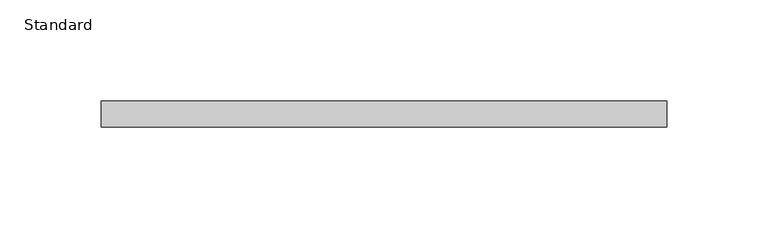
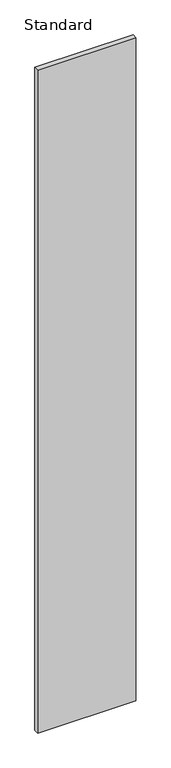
"""IFC4 building model written with IfcOpenShell, lengths in millimetres: furniture geometry, X_Partition-Compact Laminate-Duracube-Rectangular : Standard."""

from ifc_helpers import new_model, si_unit, origin, origin_with_axes, place, context, project, spatial, polyline, outline, extrude, source, transform, mapped, element, save


def standard_dad66a1c(model_context):
    return source(origin(), model_context, "Body", "SweptSolid", [
        extrude(outline(polyline([(184.7003264, 0.0), (184.7003264, -13.0), (-95.2996736, -13.0), (-95.2996736, 0.0), (184.7003264, 0.0)])), origin_with_axes(), (0.0, 0.0, 1.0), 1999.0),
    ])


if __name__ == "__main__":
    model = new_model("IFC4")
    model_context = context("Model", 3, world=origin())
    ifc_project = project(units=[si_unit("LENGTHUNIT", "METRE", prefix="MILLI")], contexts=[model_context])
    site = spatial("IfcSite", under=ifc_project)
    building = spatial("IfcBuilding", under=site)
    placement = place(None, origin())
    standard_shape = standard_dad66a1c(model_context)
    element("IfcFurniture", 1, ObjectType="X_Partition-Compact Laminate-Duracube-Rectangular : Standard", at=placement, inside=building, context=model_context, shape_type="MappedRepresentation", body=[
        mapped(standard_shape, transform((0.0, 0.0, 0.0), x_axis=(1.0, 0.0, 0.0), y_axis=(0.0, 1.0, 0.0), z_axis=(0.0, 0.0, 1.0))),
    ])
    save(model, "model.ifc")
